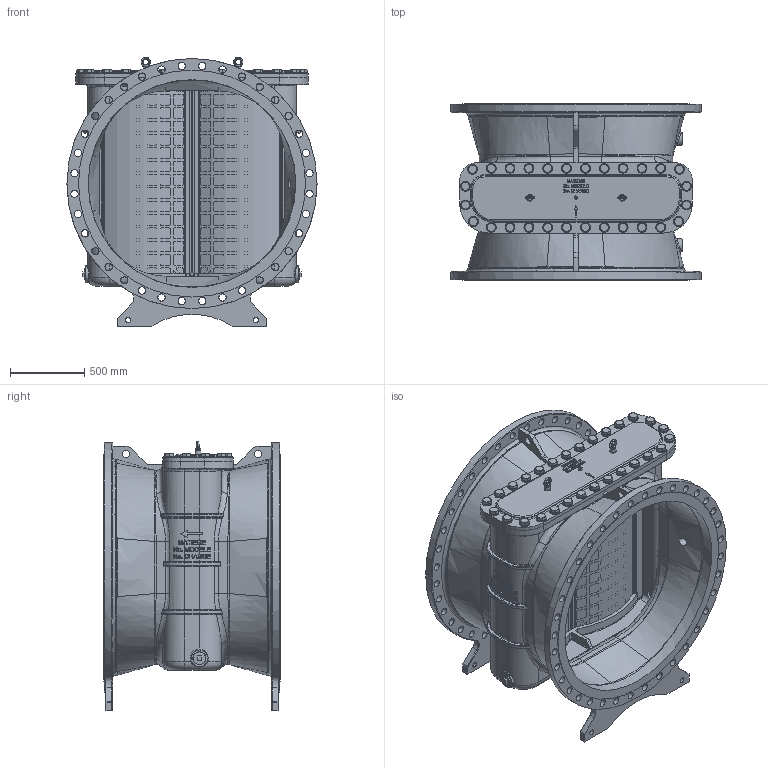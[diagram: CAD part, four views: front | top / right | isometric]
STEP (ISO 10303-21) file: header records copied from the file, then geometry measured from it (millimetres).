
FILE_DESCRIPTION(/* description */ ('AQUA 90-501 - DN 1400 / PN 16'),/* implementation_level */ '2;1');
FILE_NAME(/* name */ 'G:\Doc_Liberes\SymbolesCAD\Modeles_3D\FichierSTP\Aqua\Aqua90501\FAB1400-16RF.stp',/* time_stamp */ '2019-09-03T15:22:35+02:00',/* author */ ('leonardo'),/* organization */ (''),/* preprocessor_version */ 'ST-DEVELOPER v18',/* originating_system */ 'Autodesk Inventor 2020',/* authorisation */ '');
FILE_SCHEMA (('AUTOMOTIVE_DESIGN { 1 0 10303 214 3 1 1 }'));
Length unit declared in the file: millimetre
Products named in the file (15): *CTA90501G114002-KCO; 300577-02; 300572-01; 300573-01; FABT-041; FABT-042; 300571-01; ISO 7089 - 36 - 140 HV; ISO 4017 - M36 x 70; CDN1000; 57576-02; 57576-07; 57507; DIN EN 10242 Bouchon mâle plat T8 3; DIN 580 - M16 x 1.5
Assembly tree (72 placements, depth 3):
  *CTA90501G114002-KCO
    300577-02
    300572-01  x2
    300573-01  x2
      FABT-041
      FABT-042
    300571-01
    ISO 7089 - 36 - 140 HV  x28
    ISO 4017 - M36 x 70  x28
    DIN 580 - M16 x 1.5  x2
    CDN1000
    57576-02
      57576-07
      57507
    DIN EN 10242 Bouchon mâle plat T8 3  x2
Bounding box: 1685 x 1190 x 1816 mm (x, y, z)
Volume: 301334707.9 mm3; surface area: 25797868.1 mm2
Topology: 71 solids, 71 shells, 4745 faces, 12597 edges, 8121 vertices
Faces by surface type: plane 2002, cylinder 1626, bspline 587, torus 247, cone 243, sphere 40
Full cylindrical faces by diameter (mm): 1.6 x1, 2.3 x1, 6.5 x1, 6.92 x1, 8 x1, 13.84 x2, 14 x1, 15 x2, 16 x2, 18.63 x1, 20.955 x1, 31.67 x28, 35 x4, 36 x28, 37 x28, 39 x28, 49 x72, 51.11 x28, 52 x2, 56.66 x2, 66 x28, 84.93 x2, 112 x2, 1400 x2, 1530 x2, 1685 x2
Entity records: 128210 total; most frequent: CARTESIAN_POINT 46428, ORIENTED_EDGE 17606, DIRECTION 15136, EDGE_CURVE 8803, VERTEX_POINT 5638, AXIS2_PLACEMENT_3D 5497, LINE 4142, VECTOR 4142
